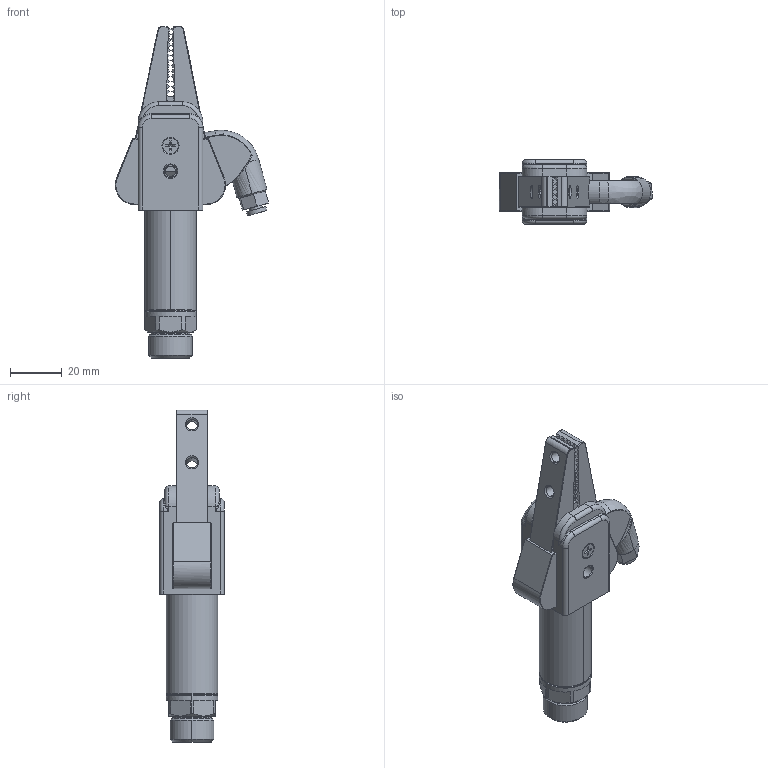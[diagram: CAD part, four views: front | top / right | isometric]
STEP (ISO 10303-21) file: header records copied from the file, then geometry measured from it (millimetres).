
FILE_DESCRIPTION (( 'STEP AP203' ), '1' );
FILE_NAME ('GRT20F.STEP', '2023-12-27T09:01:19', ( '微软用户' ), ( '微软中国' ), 'SwSTEP 2.0', 'SolidWorks 2018', '' );
FILE_SCHEMA (( 'CONFIG_CONTROL_DESIGN' ));
Length unit declared in the file: millimetre
Products named in the file (1): GRT20F
Bounding box: 59.23 x 25 x 128.32 mm (x, y, z)
Surface area: 28191.3 mm2 (no closed solid volume)
Topology: 0 solids, 16 shells, 1700 faces, 3864 edges, 2163 vertices
Faces by surface type: plane 1189, cylinder 278, cone 156, bspline 43, torus 34
Entity records: 55197 total; most frequent: CARTESIAN_POINT 21103, ORIENTED_EDGE 7676, DIRECTION 5918, EDGE_CURVE 3840, AXIS2_PLACEMENT_3D 2253, VERTEX_POINT 2155, B_SPLINE_CURVE_WITH_KNOTS 1798, EDGE_LOOP 1783
